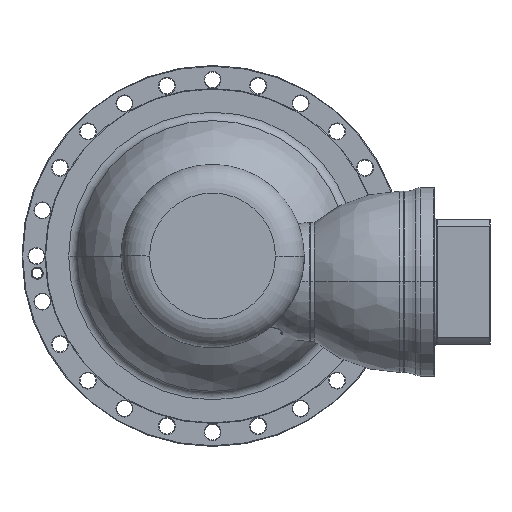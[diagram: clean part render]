
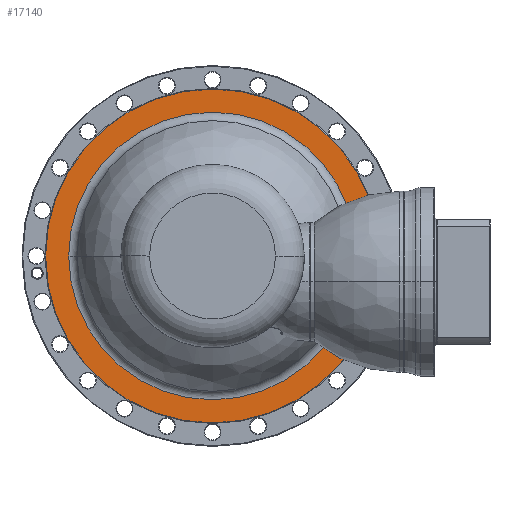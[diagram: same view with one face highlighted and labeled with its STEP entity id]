
A CAD part, left-side view. The second image highlights one B-rep face of the part: STEP entity #17140.
In plain terms, the highlighted planar face has unit normal (-1, 0, 0) as drawn and (1, 0, 0) by its records, which use the part's own axes.
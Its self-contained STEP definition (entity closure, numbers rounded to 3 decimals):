
#16611=CARTESIAN_POINT('',(-137.5,0.,0.));
#16612=DIRECTION('',(-1.,0.,0.));
#16613=DIRECTION('',(0.,-1.,0.));
#16614=AXIS2_PLACEMENT_3D('',#16611,#16612,#16613);
#16616=CARTESIAN_POINT('',(-137.5,0.,0.));
#16617=DIRECTION('',(-1.,0.,0.));
#16618=DIRECTION('',(0.,1.,0.));
#16619=AXIS2_PLACEMENT_3D('',#16616,#16617,#16618);
#16621=CARTESIAN_POINT('',(-137.5,0.,0.));
#16622=DIRECTION('',(1.,0.,0.));
#16623=DIRECTION('',(0.,-1.,0.));
#16624=AXIS2_PLACEMENT_3D('',#16621,#16622,#16623);
#16626=CARTESIAN_POINT('',(-137.5,0.,0.));
#16627=DIRECTION('',(1.,0.,0.));
#16628=DIRECTION('',(0.,1.,0.));
#16629=AXIS2_PLACEMENT_3D('',#16626,#16627,#16628);
#16858=CARTESIAN_POINT('',(-137.5,-232.2,0.));
#16859=CARTESIAN_POINT('',(-137.5,232.2,0.));
#16860=VERTEX_POINT('',#16858);
#16861=VERTEX_POINT('',#16859);
#16906=CARTESIAN_POINT('',(-137.5,-200.055,0.));
#16907=CARTESIAN_POINT('',(-137.5,200.055,0.));
#16908=VERTEX_POINT('',#16906);
#16909=VERTEX_POINT('',#16907);
#17124=CARTESIAN_POINT('',(-137.5,0.,0.));
#17125=DIRECTION('',(1.,0.,0.));
#17126=DIRECTION('',(0.,-1.,0.));
#17127=AXIS2_PLACEMENT_3D('',#17124,#17125,#17126);
#17128=PLANE('',#17127);
#17130=ORIENTED_EDGE('',*,*,#17129,.T.);
#17132=ORIENTED_EDGE('',*,*,#17131,.T.);
#17133=EDGE_LOOP('',(#17130,#17132));
#17134=FACE_OUTER_BOUND('',#17133,.F.);
#17135=ORIENTED_EDGE('',*,*,#17114,.T.);
#17137=ORIENTED_EDGE('',*,*,#17136,.T.);
#17138=EDGE_LOOP('',(#17135,#17137));
#17139=FACE_BOUND('',#17138,.F.);
#17140=ADVANCED_FACE('',(#17134,#17139),#17128,.T.);
#16615=CIRCLE('',#16614,232.2);
#16620=CIRCLE('',#16619,232.2);
#16625=CIRCLE('',#16624,200.055);
#16630=CIRCLE('',#16629,200.055);
#17114=EDGE_CURVE('',#16908,#16909,#16625,.T.);
#17129=EDGE_CURVE('',#16860,#16861,#16615,.T.);
#17131=EDGE_CURVE('',#16861,#16860,#16620,.T.);
#17136=EDGE_CURVE('',#16909,#16908,#16630,.T.);
